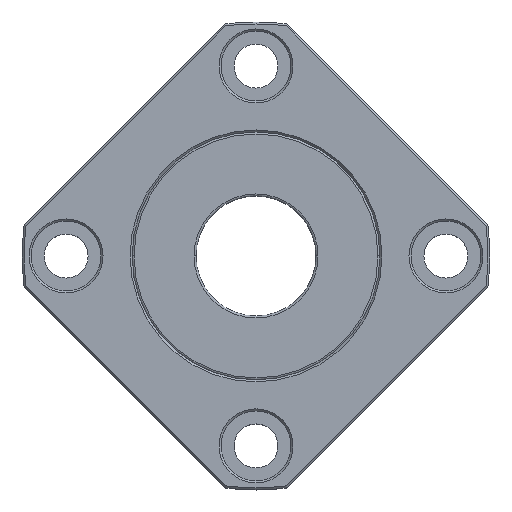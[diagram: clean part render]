
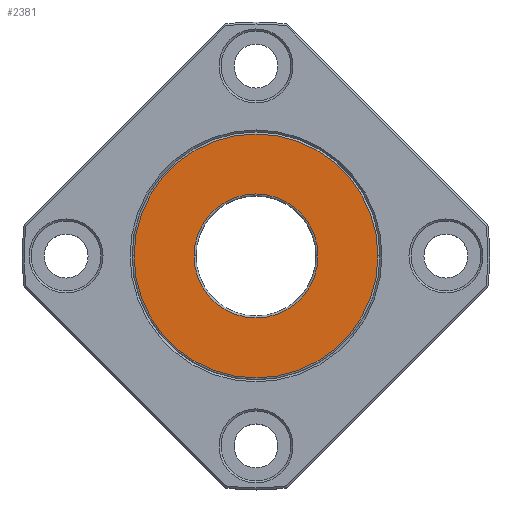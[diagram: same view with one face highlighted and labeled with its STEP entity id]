
A CAD part, top view. The second image highlights one B-rep face of the part: STEP entity #2381.
In plain terms, the highlighted planar face has unit normal (0, 0, 1).
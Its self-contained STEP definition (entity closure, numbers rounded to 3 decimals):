
#381 = CARTESIAN_POINT ( 'NONE',  ( -15.5, 0., 8. ) ) ;
#398 = CARTESIAN_POINT ( 'NONE',  ( 15.5, 0., 8. ) ) ;
#401 = CARTESIAN_POINT ( 'NONE',  ( 30.5, 0., 8. ) ) ;
#404 = CARTESIAN_POINT ( 'NONE',  ( -30.5, 0., 8. ) ) ;
#647 = CARTESIAN_POINT ( 'NONE',  ( 0., 0., 8. ) ) ;
#648 = DIRECTION ( 'NONE',  ( 0., 0., 1. ) ) ;
#649 = DIRECTION ( 'NONE',  ( 1., 0., 0. ) ) ;
#720 = CARTESIAN_POINT ( 'NONE',  ( 0., 0., 8. ) ) ;
#721 = DIRECTION ( 'NONE',  ( 0., 0., 1. ) ) ;
#722 = DIRECTION ( 'NONE',  ( 1., 0., 0. ) ) ;
#738 = CARTESIAN_POINT ( 'NONE',  ( 0., 0., 8. ) ) ;
#742 = DIRECTION ( 'NONE',  ( 0., 0., -1. ) ) ;
#743 = DIRECTION ( 'NONE',  ( 1., 0., 0. ) ) ;
#983 = PLANE ( 'NONE',  #1713 ) ;
#984 = CARTESIAN_POINT ( 'NONE',  ( 0., 0., 8. ) ) ;
#985 = DIRECTION ( 'NONE',  ( 0., 0., 1. ) ) ;
#986 = DIRECTION ( 'NONE',  ( 1., 0., 0. ) ) ;
#1028 = VERTEX_POINT ( 'NONE', #381 ) ;
#1059 = VERTEX_POINT ( 'NONE', #398 ) ;
#1063 = VERTEX_POINT ( 'NONE', #401 ) ;
#1066 = VERTEX_POINT ( 'NONE', #404 ) ;
#1153 = ORIENTED_EDGE ( 'NONE', *, *, #2276, .T. ) ;
#1154 = ORIENTED_EDGE ( 'NONE', *, *, #2418, .T. ) ;
#1156 = ORIENTED_EDGE ( 'NONE', *, *, #2305, .T. ) ;
#1157 = ORIENTED_EDGE ( 'NONE', *, *, #2298, .T. ) ;
#1272 = EDGE_LOOP ( 'NONE', ( #1154, #1156 ) ) ;
#1273 = EDGE_LOOP ( 'NONE', ( #1153, #1157 ) ) ;
#1515 = AXIS2_PLACEMENT_3D ( 'NONE', #738, #742, #743 ) ;
#1672 = FACE_OUTER_BOUND ( 'NONE', #1273, .T. ) ;
#1707 = AXIS2_PLACEMENT_3D ( 'NONE', #1971, #1972, #1973 ) ;
#1713 = AXIS2_PLACEMENT_3D ( 'NONE', #984, #985, #986 ) ;
#1719 = AXIS2_PLACEMENT_3D ( 'NONE', #720, #721, #722 ) ;
#1824 = FACE_BOUND ( 'NONE', #1272, .T. ) ;
#1861 = AXIS2_PLACEMENT_3D ( 'NONE', #647, #648, #649 ) ;
#1971 = CARTESIAN_POINT ( 'NONE',  ( 0., 0., 8. ) ) ;
#1972 = DIRECTION ( 'NONE',  ( 0., 0., -1. ) ) ;
#1973 = DIRECTION ( 'NONE',  ( 1., 0., 0. ) ) ;
#2160 = CIRCLE ( 'NONE', #1861, 30.5 ) ;
#2171 = CIRCLE ( 'NONE', #1719, 30.5 ) ;
#2176 = CIRCLE ( 'NONE', #1515, 15.5 ) ;
#2235 = CIRCLE ( 'NONE', #1707, 15.5 ) ;
#2276 = EDGE_CURVE ( 'NONE', #1063, #1066, #2160, .T. ) ;
#2298 = EDGE_CURVE ( 'NONE', #1066, #1063, #2171, .T. ) ;
#2305 = EDGE_CURVE ( 'NONE', #1028, #1059, #2176, .T. ) ;
#2381 = ADVANCED_FACE ( 'NONE', ( #1824, #1672 ), #983, .T. ) ;
#2418 = EDGE_CURVE ( 'NONE', #1059, #1028, #2235, .T. ) ;
